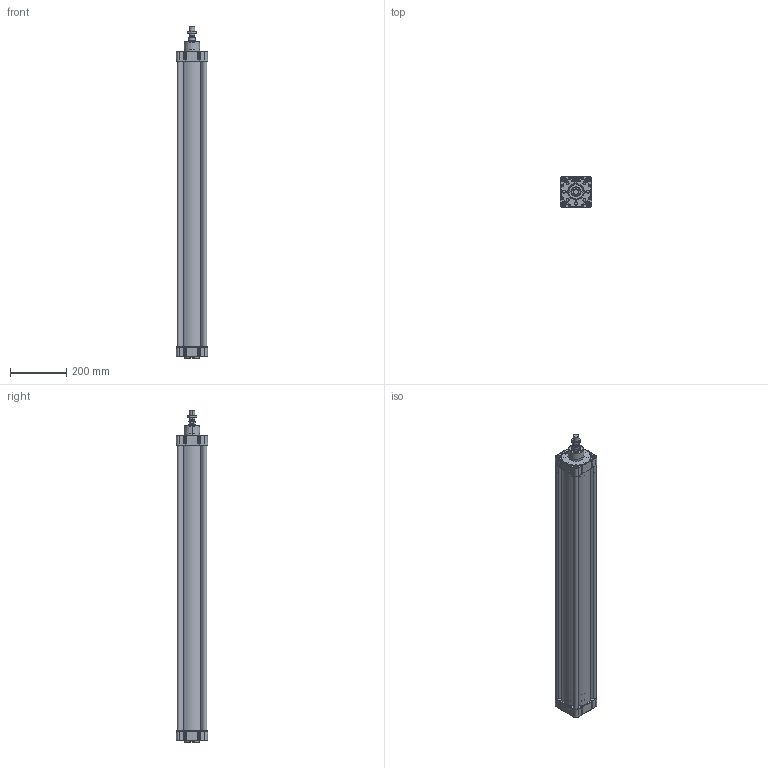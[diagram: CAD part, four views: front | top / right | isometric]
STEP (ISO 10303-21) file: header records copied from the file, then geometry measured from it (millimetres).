
FILE_DESCRIPTION (( 'STEP AP214' ), '1' );
FILE_NAME ('E11M21000950.STEP', '2021-10-28T15:02:48', ( '' ), ( '' ), 'SwSTEP 2.0', 'SolidWorks 2016', '' );
FILE_SCHEMA (( 'AUTOMOTIVE_DESIGN' ));
Length unit declared in the file: millimetre
Products named in the file (7): 000.535.7_000.535.0950; 21.F01.0000_21.F01.0950; 21.753.0; Pistone Ø100 ISO 15552; TP Ø100 ISO 15552 WEB; E11M21000950; TA Ø100 ISO 15552 WEB
Assembly tree (6 placements, depth 2):
  E11M21000950
    TP Ø100 ISO 15552 WEB
    TA Ø100 ISO 15552 WEB
    21.F01.0000_21.F01.0950
    Pistone Ø100 ISO 15552
    000.535.7_000.535.0950
    21.753.0
Bounding box: 111.9 x 111.95 x 1184 mm (x, y, z)
Volume: 3077471.1 mm3; surface area: 1421279.4 mm2
Topology: 17 solids, 19 shells, 2094 faces, 5380 edges, 3382 vertices
Faces by surface type: plane 832, cylinder 663, cone 353, bspline 108, torus 100, sphere 38
Entity records: 87868 total; most frequent: CARTESIAN_POINT 16816, ORIENTED_EDGE 10672, DIRECTION 10450, EDGE_CURVE 5336, AXIS2_PLACEMENT_3D 3826, VERTEX_POINT 3382, LINE 2798, VECTOR 2798
